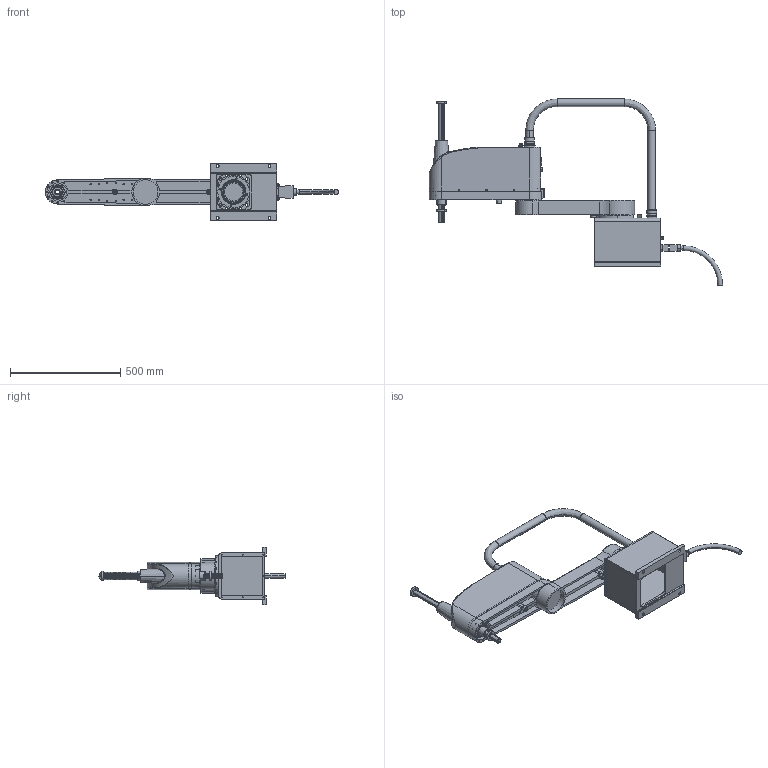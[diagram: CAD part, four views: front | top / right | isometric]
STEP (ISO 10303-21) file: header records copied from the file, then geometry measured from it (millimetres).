
FILE_DESCRIPTION (( 'STEP AP214' ), '1' );
FILE_NAME ('AR81030-E-00.STEP', '2019-12-16T03:37:49', ( '微软用户' ), ( '微软中国' ), 'SwSTEP 2.0', 'SolidWorks 2018', '' );
FILE_SCHEMA (( 'AUTOMOTIVE_DESIGN' ));
Length unit declared in the file: millimetre
Products named in the file (8): 菁釱-800軞旋酗; 佪裝郪璃; hexagon socket head cap screws gb_GB_FASTENER_SCREWS_HSHCS M4X16-N; Z粣癹弇輸; 25N_450; Y旋郪璃; X旋郪璃-400旋酗; AR81030-E-00
Assembly tree (9 placements, depth 3):
  AR81030-E-00
    X旋郪璃-400旋酗
    Y旋郪璃
    佪裝郪璃
      25N_450
      Z粣癹弇輸  x2
      hexagon socket head cap screws gb_GB_FASTENER_SCREWS_HSHCS M4X16-N  x2
    菁釱-800軞旋酗
Bounding box: 1331.5 x 845.13 x 260 mm (x, y, z)
Volume: 144757.3 mm3; surface area: 1929960.2 mm2
Topology: 5 solids, 65 shells, 1253 faces, 3729 edges, 2550 vertices
Faces by surface type: cylinder 701, plane 419, cone 78, bspline 33, torus 22
Entity records: 58397 total; most frequent: CARTESIAN_POINT 11506, DIRECTION 7769, ORIENTED_EDGE 6130, EDGE_CURVE 3618, AXIS2_PLACEMENT_3D 3016, VERTEX_POINT 2483, CIRCLE 1825, LINE 1737
